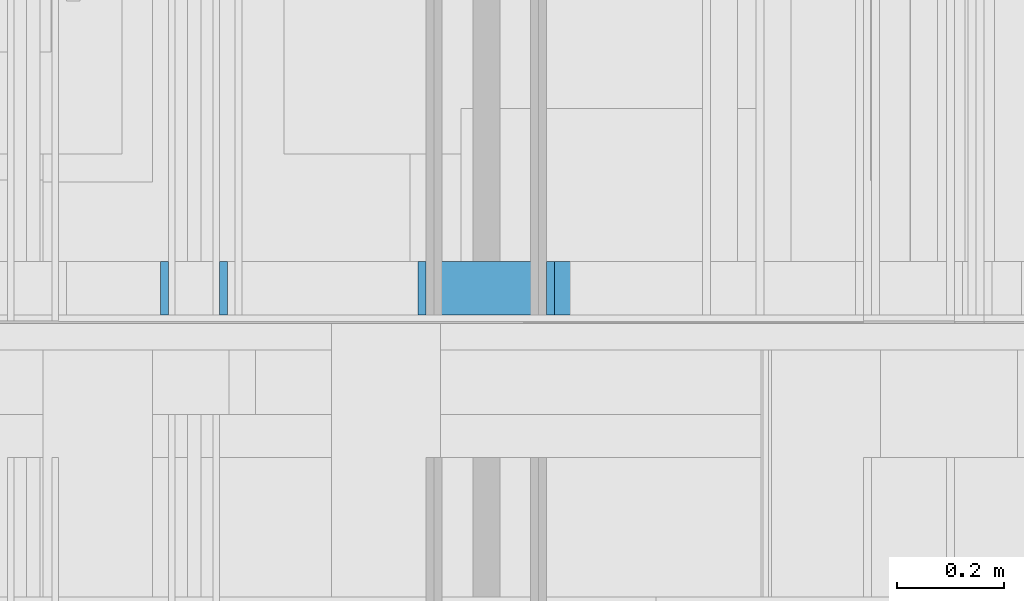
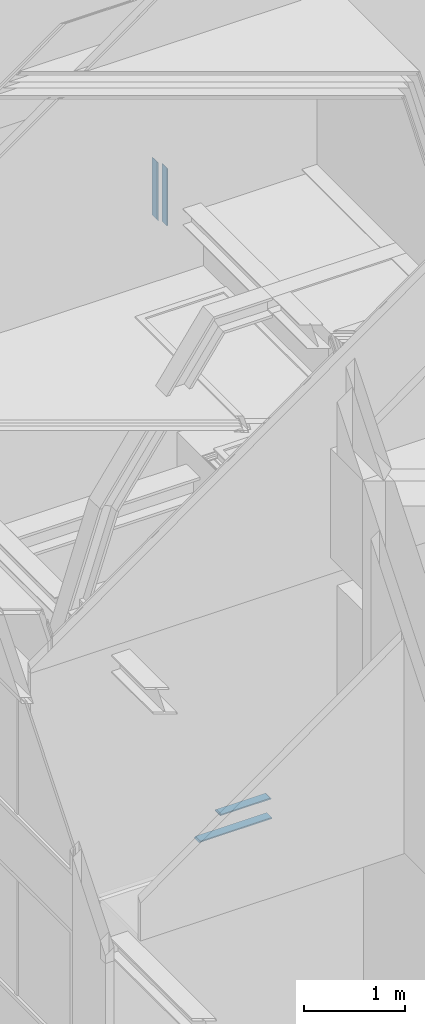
# One storey, part 200 of 583: 6 building element parts, 3 elements without a shape of their own.
"""IFC2X3 building model written with IfcOpenShell, lengths in metres."""

from ifc_helpers import new_model, entity, si_unit, converted_unit, derived_unit, money_unit, direction, frame, frame_2d, origin_with_axes, place, context, subcontext, project, spatial, polyline, rectangle, outline, extrude, material, type_object, element, aggregate, save


model = new_model("IFC2X3")

# Units and contexts
model_context = context("Model", 3, precision=1e-05, world=origin_with_axes(), true_north=direction((0.0, 1.0)))
body_context = subcontext(model_context, "Body", "Model", "MODEL_VIEW", scale=1.0)
ifc_project = project(units=[si_unit("LENGTHUNIT", "METRE"), si_unit("AREAUNIT", "SQUARE_METRE"), si_unit("VOLUMEUNIT", "CUBIC_METRE"), si_unit("ABSORBEDDOSEUNIT", "GRAY"), si_unit("AMOUNTOFSUBSTANCEUNIT", "MOLE"), si_unit("DOSEEQUIVALENTUNIT", "SIEVERT"), si_unit("ELECTRICCAPACITANCEUNIT", "FARAD"), si_unit("ELECTRICCHARGEUNIT", "COULOMB"), si_unit("ELECTRICCONDUCTANCEUNIT", "SIEMENS"), si_unit("ELECTRICCURRENTUNIT", "AMPERE"), si_unit("ELECTRICRESISTANCEUNIT", "OHM"), si_unit("ELECTRICVOLTAGEUNIT", "VOLT"), si_unit("ENERGYUNIT", "JOULE"), si_unit("FORCEUNIT", "NEWTON"), si_unit("FREQUENCYUNIT", "HERTZ"), si_unit("ILLUMINANCEUNIT", "LUX"), si_unit("INDUCTANCEUNIT", "HENRY"), si_unit("LUMINOUSFLUXUNIT", "LUMEN"), si_unit("LUMINOUSINTENSITYUNIT", "CANDELA"), si_unit("MAGNETICFLUXDENSITYUNIT", "TESLA"), si_unit("MAGNETICFLUXUNIT", "WEBER"), si_unit("MASSUNIT", "GRAM"), converted_unit("PLANEANGLEUNIT", "degree", entity("IfcReal", 0.0174532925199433), si_unit("PLANEANGLEUNIT", "RADIAN"), dimensions=[0, 0, 0, 0, 0, 0, 0]), si_unit("POWERUNIT", "WATT"), si_unit("PRESSUREUNIT", "PASCAL"), si_unit("RADIOACTIVITYUNIT", "BECQUEREL"), si_unit("SOLIDANGLEUNIT", "STERADIAN"), si_unit("THERMODYNAMICTEMPERATUREUNIT", "KELVIN"), si_unit("TIMEUNIT", "SECOND"), derived_unit("ACCELERATIONUNIT", [(si_unit("LENGTHUNIT", "METRE"), 1), (si_unit("TIMEUNIT", "SECOND"), -2)]), derived_unit("ANGULARVELOCITYUNIT", [(converted_unit("PLANEANGLEUNIT", "degree", entity("IfcReal", 0.0174532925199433), si_unit("PLANEANGLEUNIT", "RADIAN"), dimensions=[0, 0, 0, 0, 0, 0, 0]), 1), (si_unit("TIMEUNIT", "SECOND"), -1)]), derived_unit("CURVATUREUNIT", [(converted_unit("PLANEANGLEUNIT", "degree", entity("IfcReal", 0.0174532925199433), si_unit("PLANEANGLEUNIT", "RADIAN"), dimensions=[0, 0, 0, 0, 0, 0, 0]), 1), (si_unit("LENGTHUNIT", "METRE"), -1)]), derived_unit("DYNAMICVISCOSITYUNIT", [(si_unit("PRESSUREUNIT", "PASCAL"), 1), (si_unit("TIMEUNIT", "SECOND"), 1)]), derived_unit("HEATFLUXDENSITYUNIT", [(si_unit("POWERUNIT", "WATT"), 1), (si_unit("LENGTHUNIT", "METRE"), -2)]), derived_unit("HEATINGVALUEUNIT", [(si_unit("ENERGYUNIT", "JOULE"), 1), (si_unit("MASSUNIT", "GRAM"), -1)]), derived_unit("INTEGERCOUNTRATEUNIT", [(si_unit("TIMEUNIT", "SECOND"), -1)]), derived_unit("IONCONCENTRATIONUNIT", [(si_unit("MASSUNIT", "GRAM"), 1), (si_unit("VOLUMEUNIT", "CUBIC_METRE"), -1)]), derived_unit("ISOTHERMALMOISTURECAPACITYUNIT", [(si_unit("VOLUMEUNIT", "CUBIC_METRE"), 1), (si_unit("MASSUNIT", "GRAM"), -1)]), derived_unit("KINEMATICVISCOSITYUNIT", [(si_unit("AREAUNIT", "SQUARE_METRE"), 1), (si_unit("TIMEUNIT", "SECOND"), -1)]), derived_unit("LINEARFORCEUNIT", [(si_unit("FORCEUNIT", "NEWTON"), 1), (si_unit("LENGTHUNIT", "METRE"), -1)]), derived_unit("LINEARMOMENTUNIT", [(si_unit("FORCEUNIT", "NEWTON"), 1), (si_unit("LENGTHUNIT", "METRE"), -1)]), derived_unit("LINEARSTIFFNESSUNIT", [(si_unit("FORCEUNIT", "NEWTON"), 1), (si_unit("LENGTHUNIT", "METRE"), -1)]), derived_unit("LINEARVELOCITYUNIT", [(si_unit("LENGTHUNIT", "METRE"), 1), (si_unit("TIMEUNIT", "SECOND"), -1)]), derived_unit("LUMINOUSINTENSITYDISTRIBUTIONUNIT", [(si_unit("LUMINOUSINTENSITYUNIT", "CANDELA"), 1), (si_unit("LUMINOUSFLUXUNIT", "LUMEN"), -1)]), derived_unit("MASSDENSITYUNIT", [(si_unit("MASSUNIT", "GRAM"), 1), (si_unit("VOLUMEUNIT", "CUBIC_METRE"), -1)]), derived_unit("MASSFLOWRATEUNIT", [(si_unit("MASSUNIT", "GRAM"), 1), (si_unit("TIMEUNIT", "SECOND"), -1)]), derived_unit("MASSPERLENGTHUNIT", [(si_unit("MASSUNIT", "GRAM"), 1), (si_unit("LENGTHUNIT", "METRE"), -1)]), derived_unit("MODULUSOFELASTICITYUNIT", [(si_unit("FORCEUNIT", "NEWTON"), 1), (si_unit("AREAUNIT", "SQUARE_METRE"), -1)]), derived_unit("MODULUSOFLINEARSUBGRADEREACTIONUNIT", [(si_unit("FORCEUNIT", "NEWTON"), 1), (si_unit("LENGTHUNIT", "METRE"), -2)]), derived_unit("MODULUSOFROTATIONALSUBGRADEREACTIONUNIT", [(si_unit("FORCEUNIT", "NEWTON"), 1), (si_unit("LENGTHUNIT", "METRE"), 1)]), derived_unit("MODULUSOFSUBGRADEREACTIONUNIT", [(si_unit("FORCEUNIT", "NEWTON"), 1), (si_unit("VOLUMEUNIT", "CUBIC_METRE"), -1)]), derived_unit("MOISTUREDIFFUSIVITYUNIT", [(si_unit("VOLUMEUNIT", "CUBIC_METRE"), 1), (si_unit("TIMEUNIT", "SECOND"), -1)]), derived_unit("MOLECULARWEIGHTUNIT", [(si_unit("MASSUNIT", "GRAM"), 1), (si_unit("AMOUNTOFSUBSTANCEUNIT", "MOLE"), -1)]), derived_unit("PLANARFORCEUNIT", [(si_unit("FORCEUNIT", "NEWTON"), 1), (si_unit("LENGTHUNIT", "METRE"), -2)]), derived_unit("ROTATIONALFREQUENCYUNIT", [(si_unit("TIMEUNIT", "SECOND"), -1)]), derived_unit("ROTATIONALMASSUNIT", [(si_unit("MASSUNIT", "GRAM"), 1), (si_unit("LENGTHUNIT", "METRE"), 2)]), derived_unit("ROTATIONALSTIFFNESSUNIT", [(si_unit("FORCEUNIT", "NEWTON"), 1), (si_unit("LENGTHUNIT", "METRE"), 1), (converted_unit("PLANEANGLEUNIT", "degree", entity("IfcReal", 0.0174532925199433), si_unit("PLANEANGLEUNIT", "RADIAN"), dimensions=[0, 0, 0, 0, 0, 0, 0]), -1)]), derived_unit("SECTIONAREAINTEGRALUNIT", [(si_unit("LENGTHUNIT", "METRE"), 5)]), derived_unit("SECTIONMODULUSUNIT", [(si_unit("LENGTHUNIT", "METRE"), 3)]), derived_unit("SHEARMODULUSUNIT", [(si_unit("FORCEUNIT", "NEWTON"), 1), (si_unit("AREAUNIT", "SQUARE_METRE"), -1)]), derived_unit("SOUNDPOWERUNIT", [(si_unit("ENERGYUNIT", "JOULE"), 1), (si_unit("TIMEUNIT", "SECOND"), -1)]), derived_unit("SPECIFICHEATCAPACITYUNIT", [(si_unit("FORCEUNIT", "NEWTON"), 1), (si_unit("MASSUNIT", "GRAM"), -1), (si_unit("THERMODYNAMICTEMPERATUREUNIT", "KELVIN"), -1)]), derived_unit("TEMPERATUREGRADIENTUNIT", [(si_unit("THERMODYNAMICTEMPERATUREUNIT", "KELVIN"), 1), (si_unit("LENGTHUNIT", "METRE"), -1)]), derived_unit("THERMALADMITTANCEUNIT", [(si_unit("POWERUNIT", "WATT"), 1), (si_unit("AREAUNIT", "SQUARE_METRE"), -1), (si_unit("THERMODYNAMICTEMPERATUREUNIT", "KELVIN"), -1)]), derived_unit("THERMALCONDUCTANCEUNIT", [(si_unit("POWERUNIT", "WATT"), 1), (si_unit("LENGTHUNIT", "METRE"), -1), (si_unit("THERMODYNAMICTEMPERATUREUNIT", "KELVIN"), -1)]), derived_unit("THERMALEXPANSIONCOEFFICIENTUNIT", [(si_unit("THERMODYNAMICTEMPERATUREUNIT", "KELVIN"), -1)]), derived_unit("THERMALRESISTANCEUNIT", [(si_unit("AREAUNIT", "SQUARE_METRE"), 1), (si_unit("POWERUNIT", "WATT"), -1)]), derived_unit("THERMALTRANSMITTANCEUNIT", [(si_unit("POWERUNIT", "WATT"), 1), (si_unit("AREAUNIT", "SQUARE_METRE"), -1), (si_unit("THERMODYNAMICTEMPERATUREUNIT", "KELVIN"), -1)]), derived_unit("TORQUEUNIT", [(si_unit("FORCEUNIT", "NEWTON"), 1), (si_unit("LENGTHUNIT", "METRE"), 1)]), derived_unit("VAPORPERMEABILITYUNIT", [(si_unit("MASSUNIT", "GRAM"), 1), (si_unit("TIMEUNIT", "SECOND"), -1)]), derived_unit("VOLUMETRICFLOWRATEUNIT", [(si_unit("VOLUMEUNIT", "CUBIC_METRE"), 1), (si_unit("TIMEUNIT", "SECOND"), -1)]), derived_unit("WARPINGCONSTANTUNIT", [(si_unit("LENGTHUNIT", "METRE"), 6)]), derived_unit("WARPINGMOMENTUNIT", [(si_unit("FORCEUNIT", "NEWTON"), 1), (si_unit("LENGTHUNIT", "METRE"), 2)]), money_unit("GBP")], contexts=[model_context])

# Site, building, storey
site_placement = place(None, origin_with_axes())
site = spatial("IfcSite", under=ifc_project, at=site_placement, Name="Site", CompositionType="ELEMENT")
building_placement = place(site_placement, origin_with_axes())
building = spatial("IfcBuilding", under=site, at=building_placement, Name="Building01", CompositionType="ELEMENT")
storey_placement = place(building_placement, frame((0.0, 0.0, 20.78), z_axis=(0.0, 0.0, 1.0), x_axis=(1.0, 0.0, 0.0)))
storey = spatial("IfcBuildingStorey", under=building, at=storey_placement, Name="RL", CompositionType="ELEMENT", Elevation=20.78)

# Wall, building element part
wall_type_1 = type_object("IfcWallType", Name="SHE_A-Walls_Type01c_Partywall_225mm_twin_tall", PredefinedType="NOTDEFINED")
wall_1_placement = place(storey_placement, frame((4.302428, 8.64, -8.492), z_axis=(0.0, 1.0, 0.0), x_axis=(0.0, 0.0, 1.0)))
wall_1 = element("IfcWall", 1, at=wall_1_placement, inside=storey, type_object=wall_type_1, Name="1C", ObjectType="SHE_A-Walls_Type01c_Partywall_225mm_twin_tall")
ifc_material = material(Name="A_BSUK_Walls_Timber")
building_element_part_1_placement = place(wall_1_placement, origin_with_axes())
building_element_part_1 = element("IfcBuildingElementPart", 2, at=building_element_part_1_placement, material=ifc_material, Name="2", context=body_context, shape_type="SweptSolid", body=[
    extrude(outline(polyline([(0.102, 0.102), (0.087, 0.087), (0.102549, 0.087), (0.102549, 0.102), (0.102, 0.102)])), frame((0.0, 0.0, 0.015), z_axis=(0.0, 0.0, 1.0), x_axis=(1.0, 0.0, 0.0)), (0.0, 0.0, 1.0), 0.1),
])
aggregate(wall_1, [building_element_part_1])

# Wall, building element parts
wall_type_2 = type_object("IfcWallType", Name="SHE_A-Walls_Type05a_Partition_95mm_tall", PredefinedType="NOTDEFINED")
wall_2_placement = place(storey_placement, frame((3.72, 8.64, -1.005), z_axis=(0.0, 1.0, 0.0), x_axis=(0.0, 0.0, 1.0)))
wall_2 = element("IfcWall", 3, at=wall_2_placement, inside=storey, type_object=wall_type_2, Name="5A", ObjectType="SHE_A-Walls_Type05a_Partition_95mm_tall")
placement_1 = place(wall_2_placement, origin_with_axes())
building_element_part_2 = element("IfcBuildingElementPart", 4, at=placement_1, material=ifc_material, Name="2", context=body_context, shape_type="SweptSolid", body=[
    extrude(outline(polyline([(0.735, -0.035), (0.035, -0.035), (0.05, -0.05), (0.75, -0.05), (0.735, -0.035)])), frame((0.0, 0.0, 0.015), z_axis=(0.0, 0.0, 1.0), x_axis=(1.0, 0.0, 0.0)), (0.0, 0.0, 1.0), 0.1),
])
building_element_part_3 = element("IfcBuildingElementPart", 5, at=placement_1, material=ifc_material, Name="3", context=body_context, shape_type="SweptSolid", body=[
    extrude(outline(polyline([(0.625, 0.075), (-0.06, 0.075), (-0.06, 0.06), (0.64, 0.06), (0.625, 0.075)])), frame((0.0, 0.0, 0.015), z_axis=(0.0, 0.0, 1.0), x_axis=(1.0, 0.0, 0.0)), (0.0, 0.0, 1.0), 0.1),
])
aggregate(wall_2, [building_element_part_2, building_element_part_3])

wall_3_placement = place(storey_placement, frame((4.98, 8.64, -8.492), z_axis=(0.0, 1.0, 0.0), x_axis=(-1.0, 0.0, 0.0)))
wall_3 = element("IfcWall", 6, at=wall_3_placement, inside=storey, type_object=wall_type_1, Name="1C", ObjectType="SHE_A-Walls_Type01c_Partywall_225mm_twin_tall")
placement_2 = place(wall_3_placement, origin_with_axes())
building_element_part_4 = element("IfcBuildingElementPart", 7, at=placement_2, material=ifc_material, Name="2", context=body_context, shape_type="SweptSolid", body=[
    extrude(outline(polyline([(0.575572, 0.102), (0.015, 0.102), (0.0, 0.087), (0.590572, 0.087), (0.575572, 0.102)])), frame((0.0, 0.0, 0.015), z_axis=(0.0, 0.0, 1.0), x_axis=(1.0, 0.0, 0.0)), (0.0, 0.0, 1.0), 0.1),
])
building_element_part_5 = element("IfcBuildingElementPart", 8, at=placement_2, material=ifc_material, Name="7", context=body_context, shape_type="SweptSolid", body=[
    extrude(rectangle(XDim=0.815572, YDim=0.015, at=frame_2d((0.407786, -0.1455), x_axis=(-1.0, 0.0))), frame((0.0, 0.0, 0.015), z_axis=(0.0, 0.0, 1.0), x_axis=(1.0, 0.0, 0.0)), (0.0, 0.0, 1.0), 0.1),
])
building_element_part_6 = element("IfcBuildingElementPart", 9, at=placement_2, material=ifc_material, Name="8", context=body_context, shape_type="SweptSolid", body=[
    extrude(outline(polyline([(0.815572, -0.138), (0.815557, -0.138), (0.815557, -0.153), (0.830572, -0.153), (0.815572, -0.138)])), frame((0.0, 0.0, 0.015), z_axis=(0.0, 0.0, 1.0), x_axis=(1.0, 0.0, 0.0)), (0.0, 0.0, 1.0), 0.1),
])
aggregate(wall_3, [building_element_part_4, building_element_part_5, building_element_part_6])

save(model, "model.ifc")
